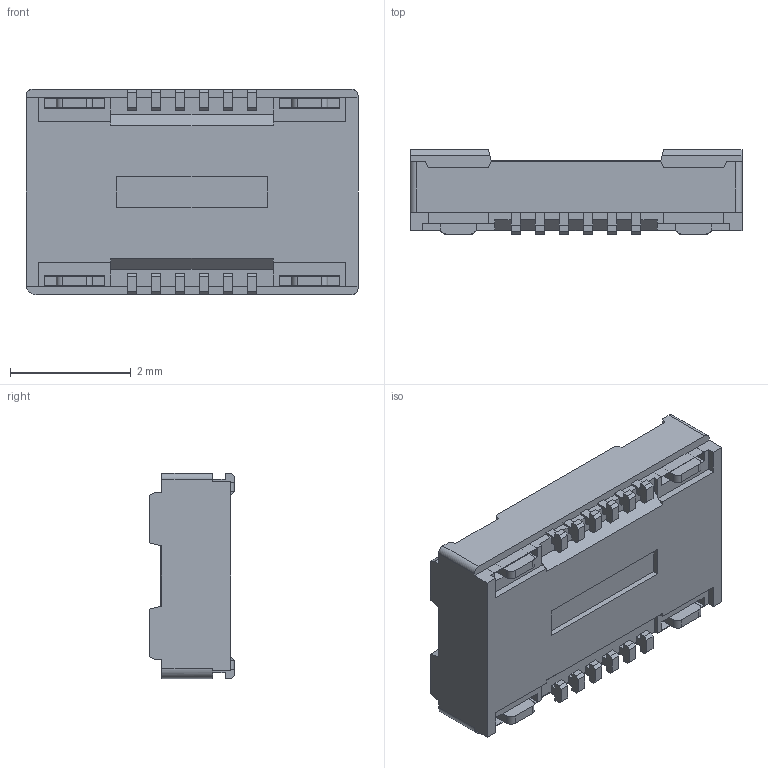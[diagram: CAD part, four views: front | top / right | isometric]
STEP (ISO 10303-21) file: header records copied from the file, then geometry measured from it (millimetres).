
FILE_DESCRIPTION((''),'2;1');
FILE_NAME('513389974','2019-05-22T',('gga'),(''),'PRO/ENGINEER BY PARAMETRIC TECHNOLOGY CORPORATION, 2016010','PRO/ENGINEER BY PARAMETRIC TECHNOLOGY CORPORATION, 2016010','');
FILE_SCHEMA(('CONFIG_CONTROL_DESIGN'));
Length unit declared in the file: millimetre
Products named in the file (1): 513389974
Bounding box: 5.5 x 1.4 x 3.4 mm (x, y, z)
Volume: 14.5 mm3; surface area: 97.3 mm2
Topology: 1 solids, 1 shells, 423 faces, 1248 edges, 837 vertices
Faces by surface type: plane 375, cylinder 40, cone 8
Entity records: 13824 total; most frequent: CARTESIAN_POINT 2475, ORIENTED_EDGE 2368, DIRECTION 2173, EDGE_CURVE 1184, VECTOR 1155, LINE 1155, VERTEX_POINT 773, AXIS2_PLACEMENT_3D 509
